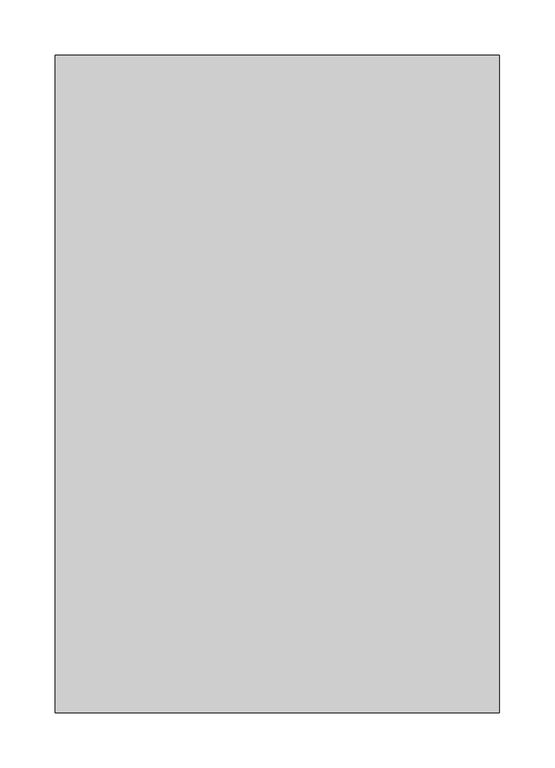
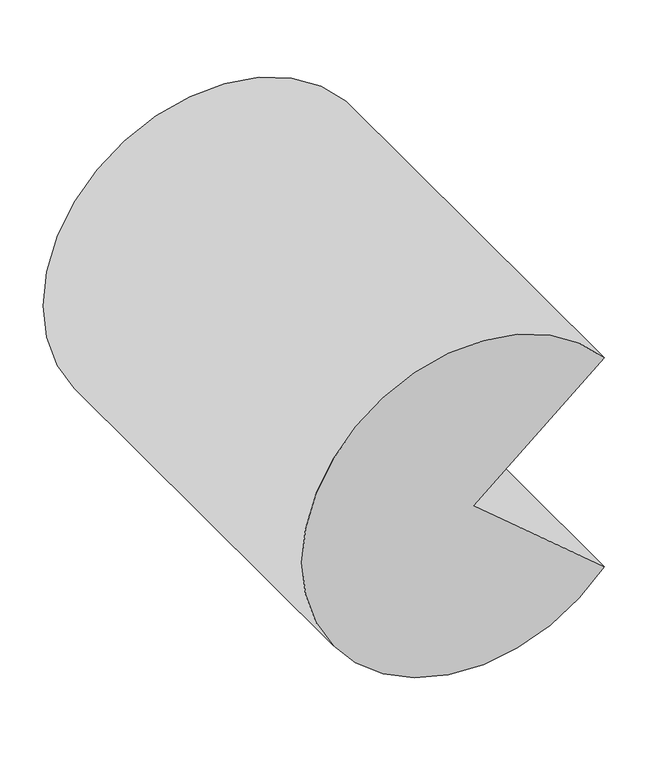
"""IFC4 building model written with IfcOpenShell, lengths in millimetres: proxy geometry, CAMBRIDGE^TABLE 3_2 BASE BOAT-BASE SHELL."""

from ifc_helpers import new_model, si_unit, point, frame, frame_2d, origin, place, context, project, spatial, polyline, circle_curve, trimmed, segment, composite_curve, outline, extrude, source, transform, mapped, element, save


def generic_models_fb54c845(model_context):
    return source(origin(), model_context, "Body", "SweptSolid", [
        extrude(outline(composite_curve([segment(polyline([(-832.7412476, -586.8822403), (-685.8, -762.0), (-538.8587524, -586.8822403)]), True, "CONTINUOUS"), segment(trimmed(circle_curve(frame_2d((-685.8, -762.0)), 228.6), [point((-538.8587524, -586.8822403))], [point((-832.7412476, -586.8822403))], False, "CARTESIAN"), True, "CONTINUOUS")], self_intersect=False)), frame((0.0, -615.95, 0.0), z_axis=(0.0, 1.0, 0.0), x_axis=(0.0, 0.0, 1.0)), (0.0, 0.0, 1.0), 596.9),
    ])


if __name__ == "__main__":
    model = new_model("IFC4")
    model_context = context("Model", 3, world=origin())
    ifc_project = project(units=[si_unit("LENGTHUNIT", "METRE", prefix="MILLI")], contexts=[model_context])
    site = spatial("IfcSite", under=ifc_project)
    building = spatial("IfcBuilding", under=site)
    placement = place(None, origin())
    generic_models_shape = generic_models_fb54c845(model_context)
    element("IfcBuildingElementProxy", 1, Name="CAMBRIDGE^TABLE 3_2 BASE BOAT-BASE SHELL", ObjectType="CAMBRIDGE^TABLE 3_2 BASE BOAT-BASE SHELL", at=placement, inside=building, context=model_context, shape_type="MappedRepresentation", body=[
        mapped(generic_models_shape, transform((0.0, 0.0, 0.0), x_axis=(1.0, 0.0, 0.0), y_axis=(0.0, 1.0, 0.0), z_axis=(0.0, 0.0, 1.0))),
    ])
    save(model, "model.ifc")
